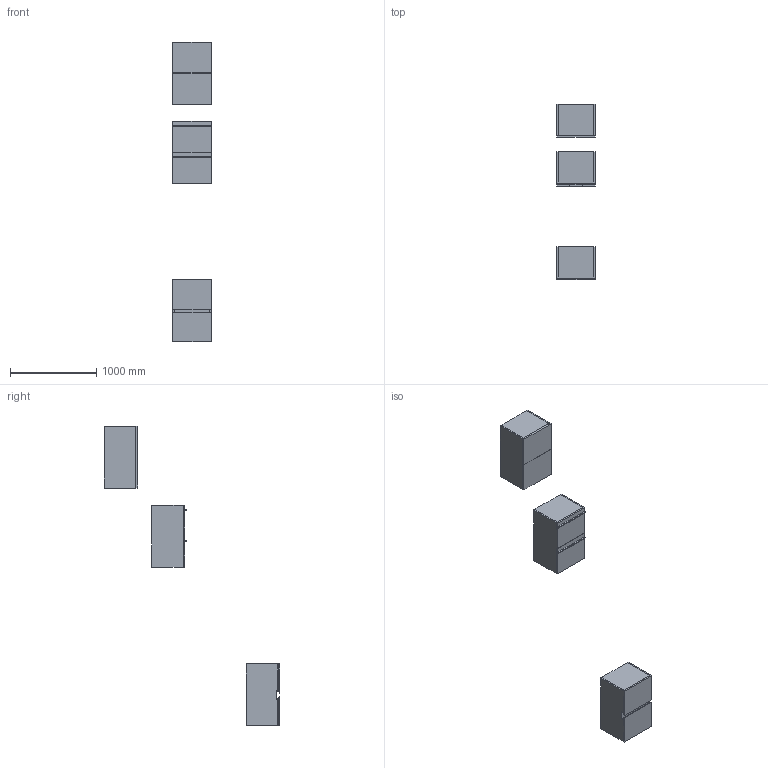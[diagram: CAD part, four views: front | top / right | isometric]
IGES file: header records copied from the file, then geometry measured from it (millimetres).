
Start section: Data from Parasolid IGES Translator 19.0.9, Copyright(c) 2006 Siemens PL M Software. All Rights Reserved.
Global section: file name: noorth-SI-H 72 D 38,8 W 45_8600.igs; native system: By Siemens PLM Incorporated; preprocessor: XPlus GENERIC/IGES 19.0.9; author: Noname; organization: Noname; date: 20200601.115419; units: metre
Bounding box: 450 x 2036 x 3480.32 mm (x, y, z)
Volume: 60545286.4 mm3; surface area: 9322458.6 mm2
Topology: 24 solids, 24 shells, 248 faces, 544 edges, 324 vertices
Faces by surface type: plane 164, extrusion 36, bspline 32, cylinder 16
